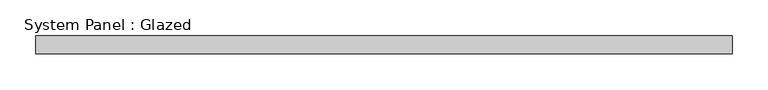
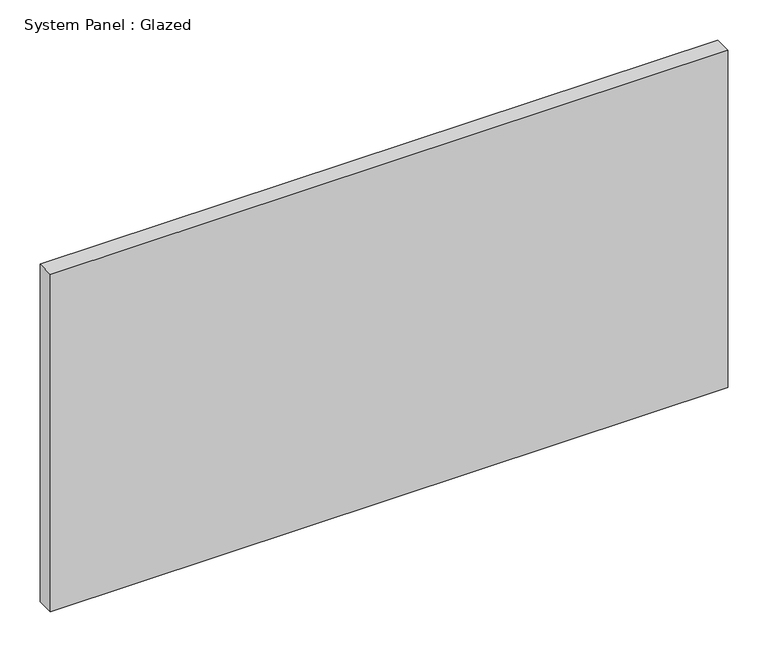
"""IFC4 building model written with IfcOpenShell, lengths in millimetres: plate geometry, System Panel : Glazed."""

from ifc_helpers import new_model, si_unit, origin, origin_with_axes, place, context, project, spatial, polyline, outline, extrude, source, transform, mapped, element, save


def system_panel_glazed_c1b7b3db(model_context):
    return source(origin(), model_context, "Body", "SweptSolid", [
        extrude(outline(polyline([(488.0339313, 19.05), (-488.0339313, 19.05), (-488.0339313, 44.45), (488.0339313, 44.45), (488.0339313, 19.05)])), origin_with_axes(), (0.0, 0.0, 1.0), 514.35),
    ])


if __name__ == "__main__":
    model = new_model("IFC4")
    model_context = context("Model", 3, world=origin())
    ifc_project = project(units=[si_unit("LENGTHUNIT", "METRE", prefix="MILLI")], contexts=[model_context])
    site = spatial("IfcSite", under=ifc_project)
    building = spatial("IfcBuilding", under=site)
    placement = place(None, origin())
    system_panel_glazed_shape = system_panel_glazed_c1b7b3db(model_context)
    element("IfcPlate", 1, ObjectType="System Panel : Glazed", at=placement, inside=building, context=model_context, shape_type="MappedRepresentation", body=[
        mapped(system_panel_glazed_shape, transform((0.0, 0.0, 0.0), x_axis=(1.0, 0.0, 0.0), y_axis=(0.0, 1.0, 0.0), z_axis=(0.0, 0.0, 1.0))),
    ])
    save(model, "model.ifc")
